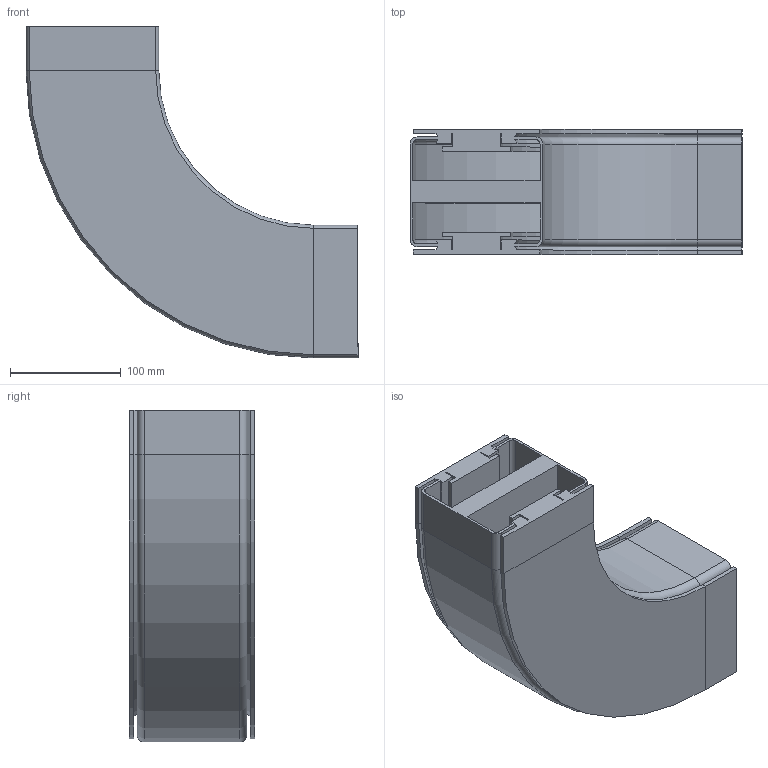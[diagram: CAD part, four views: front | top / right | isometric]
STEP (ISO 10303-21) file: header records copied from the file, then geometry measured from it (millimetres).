
FILE_DESCRIPTION (( 'STEP AP214' ), '1' );
FILE_NAME ('VC.120 Horizontale bochtsectie.R200 90.STEP', '2017-02-08T07:48:11', ( '' ), ( '' ), 'SwSTEP 2.0', 'SolidWorks 2016', '' );
FILE_SCHEMA (( 'AUTOMOTIVE_DESIGN' ));
Length unit declared in the file: millimetre
Products named in the file (1): VC.120 Horizontale bochtsectie.R200 90
Bounding box: 300 x 113 x 300 mm (x, y, z)
Volume: 2324014.3 mm3; surface area: 573747.8 mm2
Topology: 1 solids, 1 shells, 206 faces, 476 edges, 272 vertices
Faces by surface type: plane 152, cylinder 38, cone 8, torus 8
Entity records: 5674 total; most frequent: DIRECTION 990, CARTESIAN_POINT 955, ORIENTED_EDGE 952, EDGE_CURVE 476, LINE 376, VECTOR 376, AXIS2_PLACEMENT_3D 307, VERTEX_POINT 272
